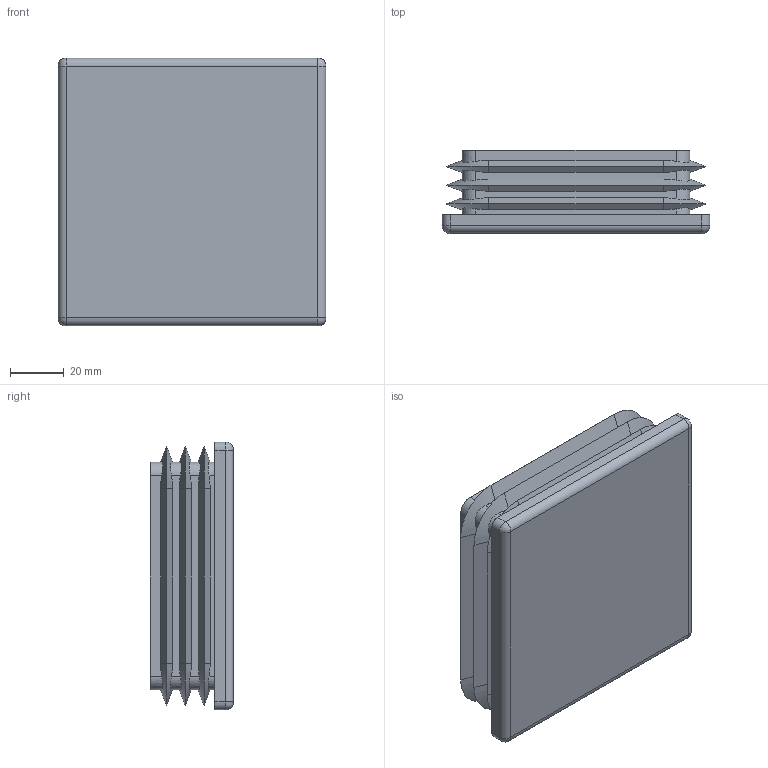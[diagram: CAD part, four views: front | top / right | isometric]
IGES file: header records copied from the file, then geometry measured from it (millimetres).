
Start section: SolidWorks IGES file using analytic representation for surfaces
Global section: file name: C:\HEMSIDA\cad\SLDPRT_2015\ifr\\ifr_100.igs; native system: SolidWorks 2015; preprocessor: SolidWorks 2015; author: Magnus; date: 150818.111748; units: millimetre
Bounding box: 100 x 31 x 100 mm (x, y, z)
Surface area: 45966.3 mm2 (no closed solid volume)
Topology: 0 solids, 0 shells, 108 faces, 1032 edges, 1028 vertices
Faces by surface type: revolution 56, bspline 52
